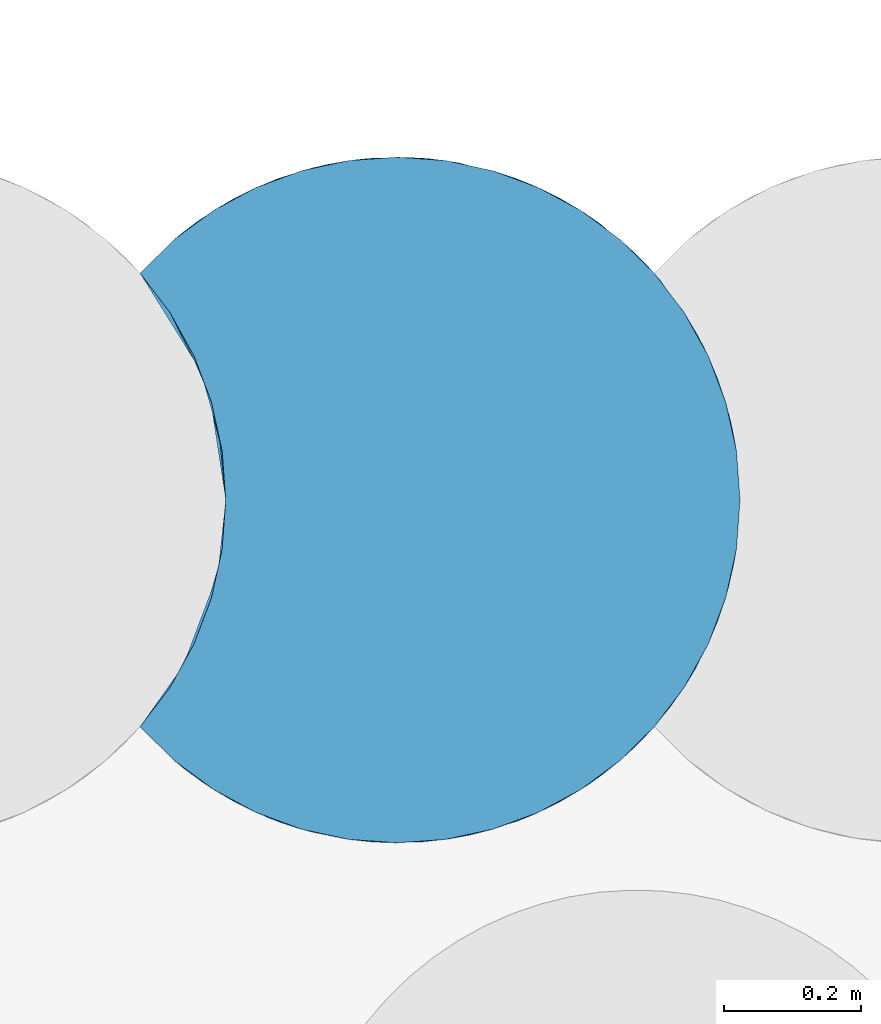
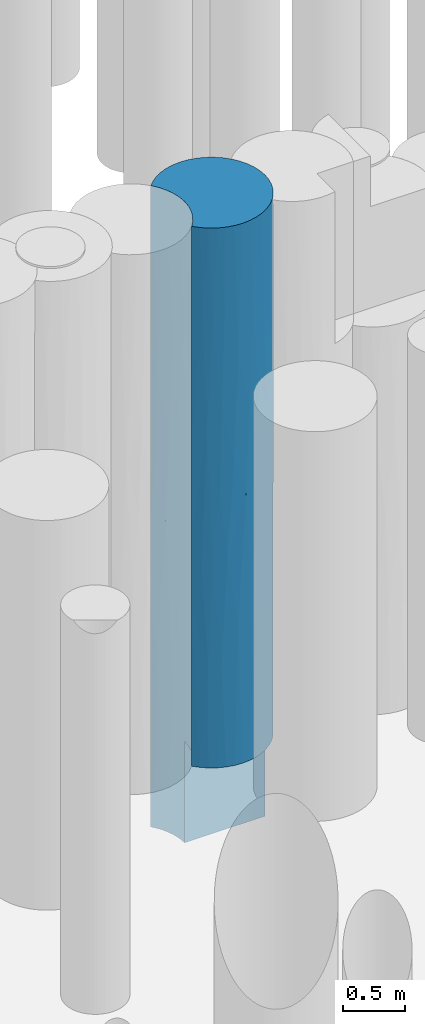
# One storey, part 88 of 104: 1 pile.
"""IFC2X3 building model written with IfcOpenShell, lengths in millimetres."""

import ifcopenshell
import ifcopenshell.guid

model = None  # the IFC model being written
_history = None  # IfcOwnerHistory: only IFC2X3 demands one
_inside = {}  # id of a spatial element -> (the spatial element, [elements in it])
_under = {}  # id of a project, library or spatial element -> (it, [spatial elements below it])
_declared = {}  # id of a project -> (the project, [libraries it declares])
_typed = {}  # id of a type object -> (the type object, [elements of that type])
_made_of = {}  # id of a material, layer set ... -> (it, [elements and type objects made of it])


def new_model(schema):
    """Start an empty IFC model of exactly this schema.

    Asked for "IFC4X3", IfcOpenShell would pick the latest addendum, in which some entities
    have other attributes; the version numbers below select the first issue.
    IFC2X3 requires an IfcOwnerHistory on every rooted entity: one is made here for all.
    """
    global model, _history
    if schema == "IFC4X3":
        model = ifcopenshell.file(schema_version=(4, 3, 0, 0))
    else:
        model = ifcopenshell.file(schema=schema)
    _inside.clear()
    _under.clear()
    _declared.clear()
    _typed.clear()
    _made_of.clear()
    _history = None
    if model.schema == "IFC2X3":
        org = make("IfcOrganization", Name="unknown")
        user = make(
            "IfcPersonAndOrganization",
            ThePerson=make("IfcPerson", FamilyName="unknown"),
            TheOrganization=org,
        )
        app = make(
            "IfcApplication",
            ApplicationDeveloper=org,
            Version="unknown",
            ApplicationFullName="unknown",
            ApplicationIdentifier="unknown",
        )
        _history = make(
            "IfcOwnerHistory",
            OwningUser=user,
            OwningApplication=app,
            ChangeAction="ADDED",
            CreationDate=0,
        )
    return model


def make(cls, **values):
    """One entity of the class cls with the attributes given. An attribute that is None is left unset."""
    return model.create_entity(
        cls, **{name: value for name, value in values.items() if value is not None}
    )


def entity(cls, *values):
    """Any entity or typed value of the class cls, its attributes in the order of the schema. None: left unset."""
    e = model.create_entity(cls)
    for i, value in enumerate(values):
        if value is not None:
            e[i] = value
    return e


def rooted(cls, **values):
    """An entity with a GlobalId (a new one), such as an element, a storey or a relation."""
    return make(cls, GlobalId=ifcopenshell.guid.new(), OwnerHistory=_history, **values)


def si_unit(unit_type, name, prefix=None):
    """IfcSIUnit, for example si_unit("LENGTHUNIT", "METRE", prefix="MILLI")."""
    return make("IfcSIUnit", UnitType=unit_type, Prefix=prefix, Name=name)


def converted_unit(unit_type, name, factor, base, dimensions=None, offset=None):
    """IfcConversionBasedUnit, such as the inch: factor (a typed value) times the base unit."""
    return make(
        "IfcConversionBasedUnit"
        if offset is None
        else "IfcConversionBasedUnitWithOffset",
        ConversionOffset=offset,
        Dimensions=None
        if dimensions is None
        else entity("IfcDimensionalExponents", *dimensions),
        UnitType=unit_type,
        Name=name,
        ConversionFactor=make(
            "IfcMeasureWithUnit", ValueComponent=factor, UnitComponent=base
        ),
    )


def derived_unit(unit_type, elements):
    """IfcDerivedUnit: a product of units, each with its exponent."""
    return make(
        "IfcDerivedUnit",
        Elements=[
            make("IfcDerivedUnitElement", Unit=unit, Exponent=power)
            for unit, power in elements
        ],
        UnitType=unit_type,
    )


def assignment(units):
    """IfcUnitAssignment: the units of a project."""
    return None if units is None else make("IfcUnitAssignment", Units=units)


def point(xyz):
    """IfcCartesianPoint."""
    return None if xyz is None else make("IfcCartesianPoint", Coordinates=xyz)


def direction(xyz):
    """IfcDirection."""
    return None if xyz is None else make("IfcDirection", DirectionRatios=xyz)


def frame(location, z_axis=None, x_axis=None):
    """IfcAxis2Placement3D, a coordinate frame: its origin and axes. An axis left out is left unset."""
    return make(
        "IfcAxis2Placement3D",
        Location=point(location),
        Axis=direction(z_axis),
        RefDirection=direction(x_axis),
    )


def origin():
    """The frame at (0, 0, 0) with its axes left unset."""
    return frame((0.0, 0.0, 0.0))


def place(relative_to, where):
    """IfcLocalPlacement: puts the frame where relative to a parent placement (None: the world)."""
    return make(
        "IfcLocalPlacement", PlacementRelTo=relative_to, RelativePlacement=where
    )


def context(
    kind, dimensions, precision=None, world=None, true_north=None, identifier=None
):
    """IfcGeometricRepresentationContext, for example the 3D "Model" context."""
    return make(
        "IfcGeometricRepresentationContext",
        ContextIdentifier=identifier,
        ContextType=kind,
        CoordinateSpaceDimension=dimensions,
        Precision=precision,
        WorldCoordinateSystem=world,
        TrueNorth=true_north,
    )


def subcontext(parent, identifier, kind, view, scale=None):
    """IfcGeometricRepresentationSubContext, for example "Body" below "Model"."""
    return make(
        "IfcGeometricRepresentationSubContext",
        ContextIdentifier=identifier,
        ContextType=kind,
        ParentContext=parent,
        TargetScale=scale,
        TargetView=view,
    )


def project(units=None, contexts=None):
    """IfcProject with its units and contexts."""
    return rooted(
        "IfcProject",
        Name="project",
        RepresentationContexts=contexts,
        UnitsInContext=assignment(units),
    )


def spatial(cls, under=None, at=None, **own):
    """A site, building, storey or space (cls), placed at a placement, below another one or the project."""
    s = rooted(cls, ObjectPlacement=at, **own)
    if under is not None:
        _under.setdefault(under.id(), (under, []))[1].append(s)
    return s


def faces_of(points, faces, orient=None, outer=None):
    """IfcFace entities. A face is a list of loops; a loop is a list of indices into points, from 0.

    orient and outer hold one flag for each loop. By default every Orientation is true, the
    first loop of a face is its IfcFaceOuterBound and the others are IfcFaceBound.
    """
    made = []
    for i, loops in enumerate(faces):
        bounds = []
        for j, loop in enumerate(loops):
            is_outer = j == 0 if outer is None else outer[i][j]
            bounds.append(
                make(
                    "IfcFaceOuterBound" if is_outer else "IfcFaceBound",
                    Bound=make("IfcPolyLoop", Polygon=[points[k] for k in loop]),
                    Orientation=True if orient is None else orient[i][j],
                )
            )
        made.append(make("IfcFace", Bounds=bounds))
    return made


def faceted_brep(points, faces, orient=None, outer=None, voids=None):
    """IfcFacetedBrep: a solid bounded by flat faces; with voids (closed shells), ...WithVoids."""
    shared = [point(p) for p in points]
    hull = make("IfcClosedShell", CfsFaces=faces_of(shared, faces, orient, outer))
    if voids is None:
        return make("IfcFacetedBrep", Outer=hull)
    return make(
        "IfcFacetedBrepWithVoids",
        Outer=hull,
        Voids=[
            make(cls, CfsFaces=faces_of(shared, fs, o, b)) for cls, fs, o, b in voids
        ],
    )


def shape(context_of_items, identifier, shape_type, items):
    """IfcShapeRepresentation: the items that make up one representation, for example the "Body"."""
    return make(
        "IfcShapeRepresentation",
        ContextOfItems=context_of_items,
        RepresentationIdentifier=identifier,
        RepresentationType=shape_type,
        Items=items,
    )


def source(mapping_origin, context_of_items, identifier, shape_type, items):
    """IfcRepresentationMap: a shape defined once, which mapped items show again and again."""
    return make(
        "IfcRepresentationMap",
        MappingOrigin=mapping_origin,
        MappedRepresentation=shape(context_of_items, identifier, shape_type, items),
    )


def transform(
    local_origin,
    x_axis=None,
    y_axis=None,
    z_axis=None,
    scale=None,
    scale2=None,
    scale3=None,
    uniform=True,
):
    """IfcCartesianTransformationOperator3D, or its non-uniform kind. x_axis, y_axis, z_axis: its Axis1, 2, 3."""
    if uniform:
        return make(
            "IfcCartesianTransformationOperator3D",
            Axis1=direction(x_axis),
            Axis2=direction(y_axis),
            LocalOrigin=point(local_origin),
            Scale=scale,
            Axis3=direction(z_axis),
        )
    return make(
        "IfcCartesianTransformationOperator3DnonUniform",
        Axis1=direction(x_axis),
        Axis2=direction(y_axis),
        LocalOrigin=point(local_origin),
        Scale=scale,
        Axis3=direction(z_axis),
        Scale2=scale2,
        Scale3=scale3,
    )


def mapped(mapping_source, mapping_target):
    """IfcMappedItem: shows the shape of a source again, moved by a transform."""
    return make(
        "IfcMappedItem", MappingSource=mapping_source, MappingTarget=mapping_target
    )


def material(Name=None, Category=None):
    """IfcMaterial."""
    return make("IfcMaterial", Name=Name, Category=Category)


def made_of(thing, what):
    """Note that an element or type object is made of a material, layer set ...; save() writes the relation."""
    if what is not None:
        _made_of.setdefault(what.id(), (what, []))[1].append(thing)
    return thing


def element(
    cls,
    number,
    at=None,
    inside=None,
    cuts=None,
    type_object=None,
    material=None,
    context=None,
    identifier="Body",
    shape_type=None,
    held_by="IfcProductDefinitionShape",
    body=None,
    shapes=None,
    **own,
):
    """One element of the class cls, such as IfcWall. Its Tag is "e" and its number.

    at: its placement. inside: the storey or other place that contains it. cuts: it is an
    opening in that element (IfcRelVoidsElement). A single representation is given by context,
    identifier, shape_type and body (its items); several are given by shapes. held_by: the class
    of the entity that holds the representations. save() writes the other relations.
    """
    e = rooted(cls, Tag="e%d" % number, ObjectPlacement=at, **own)
    if body is not None:
        shapes = [shape(context, identifier, shape_type, body)]
    if shapes is not None:
        e.Representation = make(held_by, Representations=shapes)
    if inside is not None:
        _inside.setdefault(inside.id(), (inside, []))[1].append(e)
    if cuts is not None:
        rooted(
            "IfcRelVoidsElement", RelatingBuildingElement=cuts, RelatedOpeningElement=e
        )
    if type_object is not None:
        _typed.setdefault(type_object.id(), (type_object, []))[1].append(e)
    return made_of(e, material)


def aggregate(whole, parts):
    """IfcRelAggregates: a whole, such as a stair, and the parts it consists of."""
    return rooted("IfcRelAggregates", RelatingObject=whole, RelatedObjects=parts)


def save(model, path):
    """Write the relations noted so far, then the file.

    IfcRelAggregates (storeys below a building ...), IfcRelContainedInSpatialStructure (elements
    in a storey), IfcRelDefinesByType, IfcRelAssociatesMaterial and IfcRelDeclares: one each for
    every whole, place, type object, material and project.
    """
    for whole, parts in _under.values():
        aggregate(whole, parts)
    for where, things in _inside.values():
        rooted(
            "IfcRelContainedInSpatialStructure",
            RelatedElements=things,
            RelatingStructure=where,
        )
    for kind, things in _typed.values():
        rooted("IfcRelDefinesByType", RelatedObjects=things, RelatingType=kind)
    for what, things in _made_of.values():
        rooted("IfcRelAssociatesMaterial", RelatedObjects=things, RelatingMaterial=what)
    for by, libraries in _declared.values():
        rooted("IfcRelDeclares", RelatingContext=by, RelatedDefinitions=libraries)
    model.write(path)


model = new_model("IFC2X3")

# Units and contexts
model_context = context("Model", 3, precision=0.01, world=origin(), true_north=direction((6.12303176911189e-17, 1.0)))
body_context = subcontext(model_context, "Body", "Model", "MODEL_VIEW")
ifc_project = project(units=[si_unit("LENGTHUNIT", "METRE", prefix="MILLI"), si_unit("AREAUNIT", "SQUARE_METRE", prefix="MILLI"), si_unit("VOLUMEUNIT", "CUBIC_METRE"), converted_unit("PLANEANGLEUNIT", "DEGREE", entity("IfcRatioMeasure", 0.0174532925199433), si_unit("PLANEANGLEUNIT", "RADIAN"), dimensions=[0, 0, 0, 0, 0, 0, 0]), si_unit("MASSUNIT", "GRAM", prefix="KILO"), derived_unit("MASSDENSITYUNIT", [(si_unit("MASSUNIT", "GRAM", prefix="KILO"), 1), (si_unit("LENGTHUNIT", "METRE"), -3)]), derived_unit("MOMENTOFINERTIAUNIT", [(si_unit("LENGTHUNIT", "METRE"), 4)]), si_unit("TIMEUNIT", "SECOND"), si_unit("FREQUENCYUNIT", "HERTZ"), si_unit("THERMODYNAMICTEMPERATUREUNIT", "DEGREE_CELSIUS"), derived_unit("THERMALTRANSMITTANCEUNIT", [(si_unit("MASSUNIT", "GRAM", prefix="KILO"), 1), (si_unit("THERMODYNAMICTEMPERATUREUNIT", "KELVIN"), -1), (si_unit("TIMEUNIT", "SECOND"), -3)]), derived_unit("VOLUMETRICFLOWRATEUNIT", [(si_unit("LENGTHUNIT", "METRE"), 3), (si_unit("TIMEUNIT", "SECOND"), -1)]), si_unit("ELECTRICCURRENTUNIT", "AMPERE"), si_unit("ELECTRICVOLTAGEUNIT", "VOLT"), si_unit("POWERUNIT", "WATT"), si_unit("FORCEUNIT", "NEWTON", prefix="KILO"), si_unit("ILLUMINANCEUNIT", "LUX"), si_unit("LUMINOUSFLUXUNIT", "LUMEN"), si_unit("LUMINOUSINTENSITYUNIT", "CANDELA"), derived_unit("USERDEFINED", [(si_unit("MASSUNIT", "GRAM", prefix="KILO"), -1), (si_unit("LENGTHUNIT", "METRE"), -2), (si_unit("TIMEUNIT", "SECOND"), 3), (si_unit("LUMINOUSFLUXUNIT", "LUMEN"), 1)]), derived_unit("LINEARVELOCITYUNIT", [(si_unit("LENGTHUNIT", "METRE"), 1), (si_unit("TIMEUNIT", "SECOND"), -1)]), si_unit("PRESSUREUNIT", "PASCAL"), derived_unit("USERDEFINED", [(si_unit("LENGTHUNIT", "METRE"), -2), (si_unit("MASSUNIT", "GRAM", prefix="KILO"), 1), (si_unit("TIMEUNIT", "SECOND"), -2)]), derived_unit("LINEARFORCEUNIT", [(si_unit("MASSUNIT", "GRAM", prefix="KILO"), 1), (si_unit("LENGTHUNIT", "METRE"), 1), (si_unit("TIMEUNIT", "SECOND"), -2), (si_unit("LENGTHUNIT", "METRE"), -1)]), derived_unit("PLANARFORCEUNIT", [(si_unit("MASSUNIT", "GRAM", prefix="KILO"), 1), (si_unit("LENGTHUNIT", "METRE"), 1), (si_unit("TIMEUNIT", "SECOND"), -2), (si_unit("LENGTHUNIT", "METRE"), -2)])], contexts=[model_context])

# Site, building, storey
site_placement = place(None, origin())
site = spatial("IfcSite", under=ifc_project, at=site_placement, Name="Theater aan de Parade", CompositionType="ELEMENT")
building_placement = place(site_placement, origin())
building = spatial("IfcBuilding", under=site, at=building_placement, Name="Theater aan de Parade", CompositionType="ELEMENT")
storey_placement = place(building_placement, frame((0.0, 0.0, -5520.0)))
storey = spatial("IfcBuildingStorey", under=building, at=storey_placement, Name="-2 kelder", CompositionType="ELEMENT", Elevation=-5520.0)

# Pile
ifc_material = material(Name="00_PBT_MAT_grout")
shared_shape = source(origin(), body_context, "Body", "Brep", [
    faceted_brep([(447.02456758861, 996.610134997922, 0.0), (516.050365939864, 981.753867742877, 0.0), (582.295809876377, 957.322481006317, 0.0), (644.44026184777, 923.802640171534, 0.0), (701.244632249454, 881.862011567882, 0.0), (751.564698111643, 832.344511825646, 0.0), (795.307447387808, 774.871898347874, 0.0), (830.306104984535, 711.705910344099, 0.0), (855.841245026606, 644.15507569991, 0.0), (871.379164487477, 573.629291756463, 0.0), (876.595272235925, 501.595272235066, 0.0), (126.595272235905, 501.595272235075, 0.0), (121.380912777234, 573.617282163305, 0.0), (105.846592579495, 644.137097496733, 0.0), (80.3163177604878, 711.683855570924, 0.0), (45.3225844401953, 774.848704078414, 0.0), (1.5952722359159, 832.31418611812, 0.0), (51.9353252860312, 881.85297280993, 0.0), (108.741467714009, 923.797047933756, 0.0), (170.88861650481, 957.319719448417, 0.0), (237.136331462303, 981.752750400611, 0.0), (306.163620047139, 996.609799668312, 0.0), (376.59435299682, 1001.59527223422, 0.0), (794.756123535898, 775.714776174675, 1228.81272915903), (549.604882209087, 970.708984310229, 4489.81932615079), (520.05179346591, 980.573587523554, 5382.91341902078), (613.960467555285, 941.660908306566, 5318.51941458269), (876.595272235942, 501.595272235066, 1000.0), (871.379164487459, 573.629291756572, 6320.0), (876.595272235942, 501.59527223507, 6320.0), (876.595272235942, 501.595272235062, 5539.2311470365), (876.595272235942, 501.595272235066, 4758.46227378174), (520.051793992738, 980.573587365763, 937.08657898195), (844.29483265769, 678.392108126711, 1164.36332466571), (271.387390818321, 990.401268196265, 1001.48399115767), (613.960468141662, 941.660907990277, 1001.48058281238), (465.503122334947, 993.627175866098, 3572.95728768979), (591.95749686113, 952.837016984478, 2592.25031757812), (425.191522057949, 999.228073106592, 2413.69991540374), (51.9353254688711, 881.852972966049, 6320.0), (108.741467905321, 923.797048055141, 6320.0), (62.3331531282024, 890.490271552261, 5148.84671821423), (727.290636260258, 857.983770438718, 1464.86322289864), (813.948631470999, 743.921579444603, 2176.75510940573), (411.897565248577, 1000.34746331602, 1347.03164863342), (170.41967066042, 957.107754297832, 3160.0), (89.8360826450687, 911.191618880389, 2088.29114741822), (79.5245862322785, 903.775589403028, 3056.90562258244), (844.294831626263, 678.392110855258, 4334.71686722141), (813.948631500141, 743.92157939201, 5244.04250825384), (856.70146931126, 641.230652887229, 5294.90075363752), (317.324708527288, 998.069843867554, 2005.67899400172), (139.222527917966, 941.656836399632, 5318.51289021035), (271.38739107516, 990.401268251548, 5318.51600899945), (203.580632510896, 970.707129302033, 4489.82136728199), (855.841245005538, 644.155075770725, 6320.0), (830.306104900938, 711.705910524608, 6320.0), (411.897565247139, 1000.34746331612, 4972.96835150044), (376.594352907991, 1001.59527223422, 6320.0), (447.024567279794, 996.610135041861, 6320.0), (876.595272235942, 501.595272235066, 2098.46227378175), (869.333230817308, 586.502893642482, 1549.23112851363), (646.439422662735, 922.527730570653, 4378.31323819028), (861.144910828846, 624.930781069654, 2647.69338986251), (139.222527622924, 941.656836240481, 1001.48711016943), (795.307447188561, 774.871898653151, 6320.0), (576.32127061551, 959.972328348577, 3449.19162586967), (751.585178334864, 832.325631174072, 6320.0), (727.290636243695, 857.983770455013, 5537.32646657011), (701.244631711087, 881.862012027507, 6320.0), (203.580632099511, 970.707129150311, 1830.17863376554), (644.440261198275, 923.802640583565, 6320.0), (341.290873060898, 1000.34731423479, 3160.0), (253.934917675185, 986.316261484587, 2717.65300360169), (650.019734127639, 920.210923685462, 1972.39054739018), (549.604882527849, 970.708984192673, 1830.18066998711), (62.3331529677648, 890.490271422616, 1171.15328050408), (876.595272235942, 501.595272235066, 3196.92454756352), (876.595272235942, 501.595272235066, 2561.5377059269), (793.001015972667, 778.37362504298, 4276.18344993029), (864.687323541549, 610.067155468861, 3612.80310461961), (727.290635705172, 857.983770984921, 4689.95415944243), (1.5952722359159, 832.31418611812, 5539.2341598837), (1.5952722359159, 832.31418611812, 4758.46312729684), (1.5952722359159, 832.314186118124, 780.771032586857), (1.5952722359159, 832.314186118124, 1561.53687270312), (582.295809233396, 957.322481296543, 6320.0), (516.050365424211, 981.753867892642, 6320.0), (1.5952722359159, 832.31418611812, 6320.0), (170.88861670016, 957.319719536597, 6320.0), (760.967406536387, 821.373417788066, 2912.0030688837), (306.163620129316, 996.609799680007, 6320.0), (237.13633163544, 981.752750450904, 6320.0), (317.324708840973, 998.069843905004, 4314.32100595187), (824.270181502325, 724.277053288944, 3295.1742905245), (740.36206313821, 844.631308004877, 3786.33735840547), (89.8360828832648, 911.19161904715, 4231.70885066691), (1.5952722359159, 832.314186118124, 2342.30690308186), (1.5952722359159, 832.31418611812, 3123.07374540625), (1.5952722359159, 832.31418611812, 3940.76843635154), (1.5952722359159, 832.314186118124, 4721.53764849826), (868.318681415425, 592.193775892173, 4573.5644436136), (673.583725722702, 903.836317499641, 3160.0), (876.595272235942, 501.595272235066, 4123.07541185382), (1.5952722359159, 832.314186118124, 3922.30675963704), (203.582286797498, 32.482805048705, 2063.74645387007), (104.799222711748, 81.920508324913, 2017.24056259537), (170.888936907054, 45.8706803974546, 1000.0), (306.169463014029, 6.57991348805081, 1000.0), (237.139379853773, 21.4369086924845, 1000.0), (108.739323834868, 79.3948566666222, 1000.0), (844.298622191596, 324.8084615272, 1964.84509720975), (855.843884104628, 359.044340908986, 1000.0), (871.38000584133, 429.56703200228, 1000.0), (51.9315440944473, 121.340800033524, 1000.0), (249.149636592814, 18.1104121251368, 3064.60351294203), (341.298032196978, 2.84272352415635, 2389.43952600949), (481.811471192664, 12.7910665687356, 1910.77219920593), (447.035194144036, 6.58192150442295, 1000.0), (516.062532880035, 21.4402106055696, 1000.0), (795.307447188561, 228.318645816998, 6320.0), (804.969430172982, 243.727901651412, 5501.66350533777), (830.306104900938, 291.484633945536, 6320.0), (376.602802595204, 1.59527229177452, 1000.0), (727.301618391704, 145.217581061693, 3659.99144225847), (673.596082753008, 99.3633508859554, 2270.79748972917), (774.493590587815, 198.813290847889, 2390.35009709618), (481.800031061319, 12.7886041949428, 5409.25641590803), (453.10042732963, 7.48297604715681, 4513.69340896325), (549.604883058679, 32.4815604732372, 4692.84905904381), (226.910865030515, 24.5265368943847, 5446.00106667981), (237.13633163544, 21.4377940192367, 6320.0), (170.888616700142, 45.8708249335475, 6320.0), (203.580632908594, 32.4834150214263, 4596.1797453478), (186.509828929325, 39.1371398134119, 3719.13089890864), (302.739707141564, 7.07999895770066, 3999.49399943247), (567.354968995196, 39.4148549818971, 1816.12742483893), (549.617476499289, 32.4862051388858, 2627.20563650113), (582.308728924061, 45.8738949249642, 1000.0), (613.96046814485, 61.5296364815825, 5409.2548336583), (139.222528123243, 61.5337079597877, 5366.36140196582), (94.9848091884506, 88.4420959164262, 4306.20718492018), (66.1639001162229, 109.635627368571, 5518.62855545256), (1.5952722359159, 170.87635835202, 3342.30506081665), (1.5952722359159, 170.87635835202, 4123.07341442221), (701.244631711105, 121.328532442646, 6320.0), (727.290636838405, 145.206774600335, 5009.81933080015), (751.585178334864, 170.864913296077, 6320.0), (51.9353254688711, 121.337571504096, 6320.0), (1.5952722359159, 170.87635835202, 6320.0), (1.5952722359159, 170.87635835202, 5539.23164639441), (108.741467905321, 79.3934964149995, 6320.0), (830.31122192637, 291.495683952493, 1000.0), (306.16362012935, 6.58074479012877, 6320.0), (868.398757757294, 411.432465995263, 5503.47129762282), (859.976701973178, 373.757901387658, 4296.85621176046), (376.594352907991, 1.5952722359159, 6320.0), (341.29087433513, 2.8432301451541, 4999.47557712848), (751.595272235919, 170.876358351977, 1000.0), (795.315189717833, 228.330509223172, 1000.0), (516.050365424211, 21.4366765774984, 6320.0), (447.024567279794, 6.58040942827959, 6320.0), (844.298622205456, 324.808461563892, 2985.23218810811), (453.112845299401, 7.48489892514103, 2806.341737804), (1.5952722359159, 170.87635835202, 2561.5367072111), (1.5952722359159, 170.876358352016, 1780.7688531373), (1.5952722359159, 170.87635835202, 1000.0), (644.453065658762, 79.396027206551, 1000.0), (701.256460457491, 121.338631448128, 1000.0), (644.44026119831, 79.3879038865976, 6320.0), (868.741967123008, 413.325058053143, 3421.75623803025), (411.907133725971, 2.84375851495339, 3659.99398159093), (801.333356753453, 237.781778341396, 3614.51908154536), (866.898348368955, 403.6009176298, 2475.03864258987), (139.221565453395, 61.5342272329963, 2966.67369440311), (855.841245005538, 359.035468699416, 6320.0), (844.294832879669, 324.798436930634, 5400.4078337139), (577.171561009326, 43.589647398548, 3660.0436523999), (656.879911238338, 87.5415062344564, 3205.1451433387), (651.229971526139, 83.7726041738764, 4395.20285150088), (582.295809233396, 45.868063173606, 6320.0), (813.948632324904, 259.26896656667, 4682.8808929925), (871.379164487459, 429.561252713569, 6320.0), (61.5885442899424, 113.303163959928, 2951.9221345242), (1.5952722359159, 170.876358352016, 3196.92458745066), (1.5952722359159, 170.876358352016, 4758.46229372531), (121.380912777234, 573.617282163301, 6320.0), (126.595272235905, 501.595272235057, 6320.0), (121.380912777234, 429.573262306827, 6320.0), (105.846592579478, 359.053446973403, 6320.0), (80.3163177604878, 291.506688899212, 6320.0), (45.3225844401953, 228.341840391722, 6320.0), (45.3225844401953, 774.848704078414, 6320.0), (80.3163177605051, 711.683855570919, 6320.0), (105.846592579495, 644.137097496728, 6320.0), (126.595272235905, 501.59527223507, 1000.0), (126.595272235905, 501.595272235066, 4758.46227344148), (126.595272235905, 501.595272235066, 5539.23114702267), (103.716989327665, 651.110713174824, 929.57030215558), (117.506504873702, 596.496071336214, 2931.36424013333), (119.58150099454, 585.049320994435, 1600.95905710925), (126.595272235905, 501.59527223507, 2098.46227344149), (63.9612327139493, 743.898835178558, 1002.25156593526), (57.0342575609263, 756.00101099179, 3976.06843691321), (59.0094113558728, 752.629158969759, 4844.9993535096), (94.3024450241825, 678.371969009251, 5355.17937068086), (52.6084708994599, 763.344684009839, 1951.92213360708), (94.3024450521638, 678.371968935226, 1823.06883573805), (89.4529642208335, 690.705708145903, 3078.94407721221), (119.451546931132, 585.813396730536, 3842.5615707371), (94.3024444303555, 678.371970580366, 4334.81933337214), (116.899441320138, 599.584158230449, 4844.9993589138), (126.595272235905, 501.595272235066, 3196.92454688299), (126.595272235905, 501.595272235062, 4123.07541190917), (126.595272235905, 501.595272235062, 2561.53770595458), (114.888484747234, 394.032552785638, 5404.38906559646), (63.9612331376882, 259.291710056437, 5404.38906552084), (52.4390141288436, 239.570259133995, 2802.03581882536), (63.9612331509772, 259.291710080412, 1947.59403560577), (94.3024456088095, 324.818577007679, 2700.6991032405), (114.888484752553, 394.032552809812, 1947.59403553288), (80.3163177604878, 291.506688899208, 1000.0), (45.3225844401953, 228.341840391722, 1000.0), (119.327197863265, 416.652647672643, 4541.19743988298), (86.8326465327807, 306.194250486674, 3696.32218371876), (117.809113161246, 408.273450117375, 3449.75323103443), (105.846592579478, 359.053446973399, 1000.0), (121.380912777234, 429.573262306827, 1000.0), (94.3024455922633, 324.8185769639, 4691.94526433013), (54.0384103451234, 242.187555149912, 4333.7068861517)], [[[0, 1, 2, 3, 4, 5, 6, 7, 8, 9, 10, 11, 12, 13, 14, 15, 16, 17, 18, 19, 20, 21, 22]], [[7, 6, 23]], [[24, 25, 26]], [[10, 9, 27]], [[28, 29, 30, 31]], [[1, 32, 2]], [[33, 9, 8]], [[19, 34, 20]], [[3, 2, 35]], [[36, 37, 38]], [[39, 40, 41]], [[42, 43, 23]], [[23, 43, 33]], [[42, 5, 4]], [[32, 35, 2]], [[32, 0, 44]], [[45, 46, 47]], [[5, 42, 23]], [[8, 7, 33]], [[48, 49, 50]], [[51, 44, 34]], [[52, 53, 54]], [[55, 50, 56]], [[57, 58, 59]], [[60, 27, 61]], [[24, 26, 62]], [[56, 50, 49]], [[63, 33, 43]], [[64, 19, 18]], [[49, 65, 56]], [[66, 37, 36]], [[67, 68, 69]], [[34, 64, 70]], [[68, 26, 71]], [[72, 51, 73]], [[35, 74, 42]], [[74, 35, 75]], [[75, 35, 32]], [[68, 71, 69]], [[20, 34, 21]], [[4, 35, 42]], [[76, 18, 17]], [[63, 77, 78, 60]], [[31, 50, 28]], [[79, 49, 48]], [[33, 61, 9]], [[4, 3, 35]], [[64, 34, 19]], [[77, 63, 80]], [[49, 81, 68]], [[82, 41, 83]], [[76, 84, 85]], [[68, 65, 49]], [[26, 86, 71]], [[86, 26, 25]], [[86, 25, 87]], [[88, 39, 82]], [[17, 16, 84]], [[89, 52, 40]], [[25, 59, 87]], [[81, 49, 79]], [[42, 74, 90]], [[53, 58, 57]], [[91, 53, 92]], [[70, 64, 46]], [[36, 57, 24]], [[38, 44, 51]], [[53, 89, 92]], [[22, 21, 34]], [[52, 89, 53]], [[53, 93, 54]], [[22, 44, 0]], [[62, 26, 81]], [[94, 95, 79]], [[51, 34, 70]], [[22, 34, 44]], [[76, 17, 84]], [[76, 46, 64]], [[58, 53, 91]], [[93, 53, 57]], [[96, 52, 54]], [[41, 40, 52]], [[68, 67, 65]], [[26, 68, 81]], [[46, 85, 97, 98]], [[96, 99, 100, 83]], [[46, 98, 47]], [[96, 54, 45]], [[47, 99, 96]], [[45, 54, 93]], [[46, 45, 70]], [[48, 101, 80]], [[63, 60, 61]], [[63, 43, 94]], [[73, 70, 45]], [[38, 51, 72]], [[36, 93, 57]], [[93, 72, 73]], [[37, 74, 75]], [[90, 74, 102]], [[36, 38, 72]], [[75, 44, 38]], [[36, 72, 93]], [[36, 24, 66]], [[95, 62, 81]], [[66, 62, 102]], [[48, 94, 79]], [[90, 95, 94]], [[94, 48, 80]], [[90, 94, 43]], [[42, 90, 43]], [[95, 81, 79]], [[28, 50, 55]], [[101, 48, 50]], [[0, 32, 1]], [[44, 75, 32]], [[24, 57, 25]], [[59, 25, 57]], [[90, 102, 95]], [[62, 95, 102]], [[62, 66, 24]], [[102, 74, 37]], [[9, 61, 27]], [[63, 61, 33]], [[7, 23, 33]], [[5, 23, 6]], [[50, 31, 101]], [[80, 31, 103, 77]], [[80, 101, 31]], [[94, 80, 63]], [[38, 37, 75]], [[102, 37, 66]], [[46, 76, 85]], [[76, 64, 18]], [[41, 96, 83]], [[39, 41, 82]], [[96, 41, 52]], [[96, 45, 47]], [[47, 98, 104, 99]], [[70, 73, 51]], [[93, 73, 45]], [[105, 106, 107]], [[108, 105, 109]], [[106, 110, 107]], [[111, 112, 113]], [[114, 110, 106]], [[115, 105, 116]], [[117, 118, 119]], [[120, 121, 122]], [[123, 118, 117]], [[124, 125, 126]], [[127, 128, 129]], [[130, 131, 132]], [[116, 108, 123]], [[133, 134, 135]], [[136, 137, 117]], [[136, 117, 119]], [[108, 116, 105]], [[136, 119, 138]], [[139, 127, 129]], [[130, 140, 133]], [[141, 140, 142]], [[143, 141, 144]], [[145, 146, 147]], [[148, 149, 150]], [[142, 148, 150]], [[132, 151, 140]], [[132, 140, 130]], [[112, 111, 152]], [[130, 153, 131]], [[154, 155, 103]], [[127, 156, 157]], [[158, 159, 126]], [[127, 160, 161]], [[126, 111, 162]], [[163, 116, 117]], [[114, 164, 165, 166]], [[125, 167, 168]], [[145, 169, 139]], [[158, 126, 125]], [[170, 155, 162]], [[113, 27, 60, 78]], [[128, 135, 171]], [[105, 107, 109]], [[172, 126, 162]], [[111, 159, 152]], [[162, 111, 173]], [[126, 159, 111]], [[106, 105, 174]], [[140, 141, 133]], [[175, 122, 176]], [[177, 178, 179]], [[160, 127, 180]], [[157, 156, 153]], [[139, 180, 127]], [[180, 139, 169]], [[115, 174, 105]], [[178, 125, 124]], [[121, 146, 181]], [[146, 121, 147]], [[173, 113, 78]], [[124, 172, 181]], [[146, 139, 179]], [[176, 121, 181]], [[171, 163, 177]], [[154, 175, 176]], [[136, 167, 125]], [[154, 103, 31, 30]], [[158, 125, 168]], [[181, 146, 124]], [[30, 29, 182]], [[142, 151, 148]], [[142, 144, 141]], [[163, 117, 137]], [[123, 117, 116]], [[156, 127, 161]], [[157, 135, 128]], [[179, 139, 129]], [[145, 139, 146]], [[176, 181, 155]], [[182, 154, 30]], [[172, 155, 181]], [[170, 162, 173]], [[183, 143, 184, 164]], [[134, 141, 174]], [[177, 179, 129]], [[124, 146, 179]], [[171, 115, 116]], [[134, 174, 115]], [[177, 129, 128]], [[178, 137, 125]], [[177, 163, 137]], [[116, 163, 171]], [[157, 128, 127]], [[177, 128, 171]], [[106, 174, 183]], [[114, 106, 164]], [[113, 173, 111]], [[170, 78, 77, 103]], [[78, 170, 173]], [[103, 155, 170]], [[133, 157, 130]], [[153, 130, 157]], [[143, 183, 141]], [[106, 183, 164]], [[141, 183, 174]], [[167, 136, 138]], [[125, 137, 136]], [[122, 121, 176]], [[121, 120, 147]], [[135, 134, 115]], [[141, 134, 133]], [[175, 154, 182]], [[155, 154, 176]], [[142, 150, 185, 144]], [[151, 142, 140]], [[126, 172, 124]], [[155, 172, 162]], [[133, 135, 157]], [[115, 171, 135]], [[179, 178, 124]], [[137, 178, 177]], [[186, 187, 188, 189, 190, 191, 149, 148, 151, 132, 131, 153, 156, 161, 160, 180, 169, 145, 147, 120, 122, 175, 182, 29, 28, 55, 56, 65, 67, 69, 71, 86, 87, 59, 58, 91, 92, 89, 40, 39, 88, 192, 193, 194]], [[195, 12, 11]], [[186, 196, 197, 187]], [[14, 13, 198]], [[199, 200, 201]], [[15, 202, 16]], [[100, 203, 204]], [[205, 194, 193]], [[14, 202, 15]], [[198, 13, 12]], [[206, 207, 208]], [[209, 210, 208]], [[193, 192, 205]], [[204, 205, 192]], [[196, 186, 211]], [[198, 202, 14]], [[207, 202, 198]], [[209, 211, 210]], [[211, 205, 210]], [[212, 209, 199]], [[202, 85, 84, 16]], [[186, 194, 205]], [[192, 88, 82, 83, 100]], [[210, 205, 204]], [[98, 97, 85, 206]], [[205, 211, 186]], [[209, 212, 213, 196]], [[211, 209, 196]], [[208, 199, 209]], [[210, 204, 203]], [[195, 200, 198]], [[199, 208, 207]], [[199, 201, 214, 212]], [[203, 100, 99, 104, 98]], [[100, 204, 192]], [[203, 208, 210]], [[208, 203, 98]], [[207, 198, 200]], [[195, 198, 12]], [[207, 200, 199]], [[201, 200, 195]], [[85, 202, 206]], [[98, 206, 208]], [[207, 206, 202]], [[189, 215, 216, 190]], [[188, 187, 197]], [[165, 217, 218]], [[219, 220, 218]], [[221, 222, 218]], [[223, 215, 197]], [[216, 185, 150, 149]], [[219, 224, 225]], [[214, 220, 225]], [[189, 188, 215]], [[221, 218, 220, 226]], [[227, 220, 195]], [[191, 190, 216]], [[226, 220, 227]], [[215, 228, 216]], [[225, 223, 213]], [[220, 214, 201, 195]], [[184, 229, 217]], [[225, 213, 212, 214]], [[165, 222, 166]], [[219, 218, 217]], [[218, 222, 165]], [[191, 216, 149]], [[185, 216, 229]], [[228, 215, 223]], [[215, 188, 197]], [[223, 225, 224]], [[223, 197, 196, 213]], [[228, 223, 224]], [[220, 219, 225]], [[228, 224, 229]], [[217, 229, 224]], [[228, 229, 216]], [[229, 184, 143, 144, 185]], [[219, 217, 224]], [[217, 165, 164, 184]], [[158, 168, 167, 138, 119, 118, 123, 108, 109, 107, 110, 114, 166, 222, 221, 226, 227, 195, 27, 113, 112, 152, 159]], [[195, 11, 10, 27]]]),
])
pile_placement = place(storey_placement, frame((80123.4047277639, 20202.3807468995, -3840.0)))
element("IfcPile", 1, at=pile_placement, inside=storey, material=ifc_material, Name="17_PBT_SFO_grondkering_rond:Ø1000 (grondkering)", ObjectType="17_PBT_SFO_grondkering_rond:Ø1000 (grondkering)", PredefinedType="NOTDEFINED", context=body_context, shape_type="MappedRepresentation", body=[
    mapped(shared_shape, transform((0.0, 0.0, 0.0), scale=1.0)),
])

save(model, "model.ifc")
